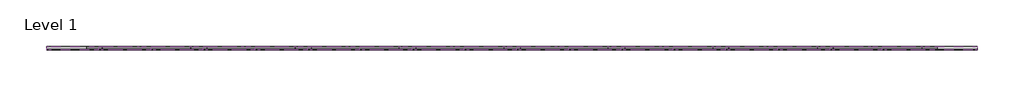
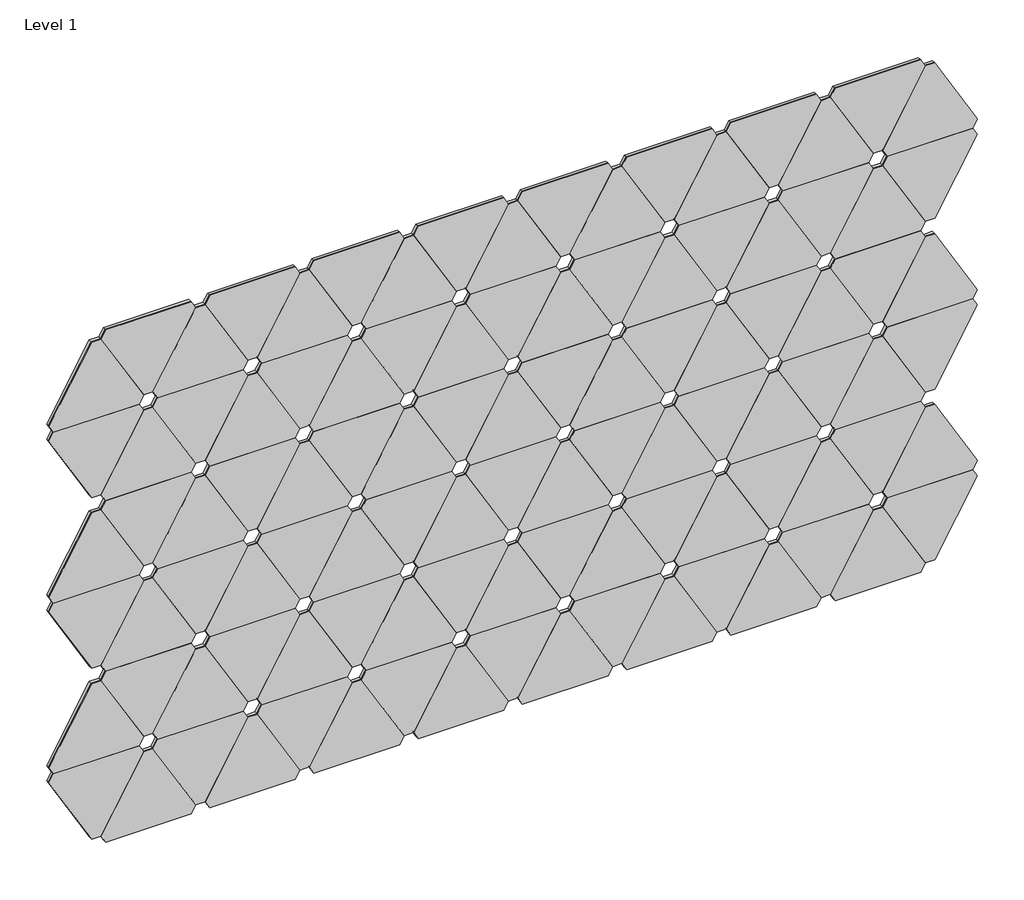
# One storey: 102 proxies.
"""IFC4 building model written with IfcOpenShell, lengths in millimetres."""

from ifc_helpers import new_model, si_unit, origin, place, context, project, spatial, transform, mapped, element, save
from components import aro_block_1_febfece8

model = new_model("IFC4")

# Units and contexts
model_context = context("Model", 3, world=origin())
ifc_project = project(units=[si_unit("LENGTHUNIT", "METRE", prefix="MILLI")], contexts=[model_context])

# Site, building, storey
site = spatial("IfcSite", under=ifc_project)
building = spatial("IfcBuilding", under=site)
storey = spatial("IfcBuildingStorey", under=building, Name="Level 1", Elevation=0.0)

# Proxies
placement = place(None, origin())
aro_block_1_shape = aro_block_1_febfece8(model_context)
element("IfcBuildingElementProxy", 1, Name="FilzFelt_ARO_Block 1 : ARO Block 1", ObjectType="FilzFelt_ARO_Block 1 : ARO Block 1", at=placement, inside=storey, context=model_context, shape_type="MappedRepresentation", body=[
    mapped(aro_block_1_shape, transform((-3219.6152095, 3946.8352795, 1144.8434287), x_axis=(-1.0, 0.0, 0.0), y_axis=(0.0, 0.0, -1.0), z_axis=(0.0, -1.0, 0.0))),
])
element("IfcBuildingElementProxy", 2, Name="FilzFelt_ARO_Block 1 : ARO Block 1", ObjectType="FilzFelt_ARO_Block 1 : ARO Block 1", at=placement, inside=storey, context=model_context, shape_type="MappedRepresentation", body=[
    mapped(aro_block_1_shape, transform((-3397.4152095, 3946.8352795, 836.8847951), x_axis=(-1.0, 0.0, 0.0), y_axis=(0.0, 0.0, -1.0), z_axis=(0.0, -1.0, 0.0))),
])
element("IfcBuildingElementProxy", 3, Name="FilzFelt_ARO_Block 1 : ARO Block 1", ObjectType="FilzFelt_ARO_Block 1 : ARO Block 1", at=placement, inside=storey, context=model_context, shape_type="MappedRepresentation", body=[
    mapped(aro_block_1_shape, transform((-3041.8152095, 3946.8352795, 836.8847951), x_axis=(-1.0, 0.0, 0.0), y_axis=(0.0, 0.0, -1.0), z_axis=(0.0, -1.0, 0.0))),
])
element("IfcBuildingElementProxy", 4, Name="FilzFelt_ARO_Block 1 : ARO Block 1", ObjectType="FilzFelt_ARO_Block 1 : ARO Block 1", at=placement, inside=storey, context=model_context, shape_type="MappedRepresentation", body=[
    mapped(aro_block_1_shape, transform((-3219.6152095, 3946.8352795, 734.2319173), x_axis=(1.0, 0.0, 0.0), y_axis=(0.0, 0.0, 1.0), z_axis=(0.0, -1.0, 0.0))),
])
element("IfcBuildingElementProxy", 5, Name="FilzFelt_ARO_Block 1 : ARO Block 1", ObjectType="FilzFelt_ARO_Block 1 : ARO Block 1", at=placement, inside=storey, context=model_context, shape_type="MappedRepresentation", body=[
    mapped(aro_block_1_shape, transform((-3219.6152095, 3946.8352795, 1760.7606959), x_axis=(-1.0, 0.0, 0.0), y_axis=(0.0, 0.0, -1.0), z_axis=(0.0, -1.0, 0.0))),
])
element("IfcBuildingElementProxy", 6, Name="FilzFelt_ARO_Block 1 : ARO Block 1", ObjectType="FilzFelt_ARO_Block 1 : ARO Block 1", at=placement, inside=storey, context=model_context, shape_type="MappedRepresentation", body=[
    mapped(aro_block_1_shape, transform((-3219.6152095, 3946.8352795, 1350.1491844), x_axis=(1.0, 0.0, 0.0), y_axis=(0.0, 0.0, 1.0), z_axis=(0.0, -1.0, 0.0))),
])
element("IfcBuildingElementProxy", 7, Name="FilzFelt_ARO_Block 1 : ARO Block 1", ObjectType="FilzFelt_ARO_Block 1 : ARO Block 1", at=placement, inside=storey, context=model_context, shape_type="MappedRepresentation", body=[
    mapped(aro_block_1_shape, transform((-2864.0152095, 3946.8352795, 1966.0664516), x_axis=(1.0, 0.0, 0.0), y_axis=(0.0, 0.0, 1.0), z_axis=(0.0, -1.0, 0.0))),
])
element("IfcBuildingElementProxy", 8, Name="FilzFelt_ARO_Block 1 : ARO Block 1", ObjectType="FilzFelt_ARO_Block 1 : ARO Block 1", at=placement, inside=storey, context=model_context, shape_type="MappedRepresentation", body=[
    mapped(aro_block_1_shape, transform((-2686.2152095, 3946.8352795, 1042.1905508), x_axis=(1.0, 0.0, 0.0), y_axis=(0.0, 0.0, 1.0), z_axis=(0.0, -1.0, 0.0))),
])
element("IfcBuildingElementProxy", 9, Name="FilzFelt_ARO_Block 1 : ARO Block 1", ObjectType="FilzFelt_ARO_Block 1 : ARO Block 1", at=placement, inside=storey, context=model_context, shape_type="MappedRepresentation", body=[
    mapped(aro_block_1_shape, transform((-2686.2152095, 3946.8352795, 836.8847951), x_axis=(-1.0, 0.0, 0.0), y_axis=(0.0, 0.0, -1.0), z_axis=(0.0, -1.0, 0.0))),
])
element("IfcBuildingElementProxy", 10, Name="FilzFelt_ARO_Block 1 : ARO Block 1", ObjectType="FilzFelt_ARO_Block 1 : ARO Block 1", at=placement, inside=storey, context=model_context, shape_type="MappedRepresentation", body=[
    mapped(aro_block_1_shape, transform((-2508.4152095, 3946.8352795, 734.2319173), x_axis=(1.0, 0.0, 0.0), y_axis=(0.0, 0.0, 1.0), z_axis=(0.0, -1.0, 0.0))),
])
element("IfcBuildingElementProxy", 11, Name="FilzFelt_ARO_Block 1 : ARO Block 1", ObjectType="FilzFelt_ARO_Block 1 : ARO Block 1", at=placement, inside=storey, context=model_context, shape_type="MappedRepresentation", body=[
    mapped(aro_block_1_shape, transform((-2330.6152095, 3946.8352795, 1658.107818), x_axis=(1.0, 0.0, 0.0), y_axis=(0.0, 0.0, 1.0), z_axis=(0.0, -1.0, 0.0))),
])
element("IfcBuildingElementProxy", 12, Name="FilzFelt_ARO_Block 1 : ARO Block 1", ObjectType="FilzFelt_ARO_Block 1 : ARO Block 1", at=placement, inside=storey, context=model_context, shape_type="MappedRepresentation", body=[
    mapped(aro_block_1_shape, transform((-2508.4152095, 3946.8352795, 1350.1491844), x_axis=(1.0, 0.0, 0.0), y_axis=(0.0, 0.0, 1.0), z_axis=(0.0, -1.0, 0.0))),
])
element("IfcBuildingElementProxy", 13, Name="FilzFelt_ARO_Block 1 : ARO Block 1", ObjectType="FilzFelt_ARO_Block 1 : ARO Block 1", at=placement, inside=storey, context=model_context, shape_type="MappedRepresentation", body=[
    mapped(aro_block_1_shape, transform((-2152.8152095, 3946.8352795, 734.2319173), x_axis=(1.0, 0.0, 0.0), y_axis=(0.0, 0.0, 1.0), z_axis=(0.0, -1.0, 0.0))),
])
element("IfcBuildingElementProxy", 14, Name="FilzFelt_ARO_Block 1 : ARO Block 1", ObjectType="FilzFelt_ARO_Block 1 : ARO Block 1", at=placement, inside=storey, context=model_context, shape_type="MappedRepresentation", body=[
    mapped(aro_block_1_shape, transform((-1975.0152095, 3946.8352795, 1042.1905508), x_axis=(1.0, 0.0, 0.0), y_axis=(0.0, 0.0, 1.0), z_axis=(0.0, -1.0, 0.0))),
])
element("IfcBuildingElementProxy", 15, Name="FilzFelt_ARO_Block 1 : ARO Block 1", ObjectType="FilzFelt_ARO_Block 1 : ARO Block 1", at=placement, inside=storey, context=model_context, shape_type="MappedRepresentation", body=[
    mapped(aro_block_1_shape, transform((-1797.2152095, 3946.8352795, 1144.8434287), x_axis=(-1.0, 0.0, 0.0), y_axis=(0.0, 0.0, -1.0), z_axis=(0.0, -1.0, 0.0))),
])
element("IfcBuildingElementProxy", 16, Name="FilzFelt_ARO_Block 1 : ARO Block 1", ObjectType="FilzFelt_ARO_Block 1 : ARO Block 1", at=placement, inside=storey, context=model_context, shape_type="MappedRepresentation", body=[
    mapped(aro_block_1_shape, transform((-1619.4152095, 3946.8352795, 836.8847951), x_axis=(-1.0, 0.0, 0.0), y_axis=(0.0, 0.0, -1.0), z_axis=(0.0, -1.0, 0.0))),
])
element("IfcBuildingElementProxy", 17, Name="FilzFelt_ARO_Block 1 : ARO Block 1", ObjectType="FilzFelt_ARO_Block 1 : ARO Block 1", at=placement, inside=storey, context=model_context, shape_type="MappedRepresentation", body=[
    mapped(aro_block_1_shape, transform((-1619.4152095, 3946.8352795, 1452.8020623), x_axis=(-1.0, 0.0, 0.0), y_axis=(0.0, 0.0, -1.0), z_axis=(0.0, -1.0, 0.0))),
])
element("IfcBuildingElementProxy", 18, Name="FilzFelt_ARO_Block 1 : ARO Block 1", ObjectType="FilzFelt_ARO_Block 1 : ARO Block 1", at=placement, inside=storey, context=model_context, shape_type="MappedRepresentation", body=[
    mapped(aro_block_1_shape, transform((-1441.6152095, 3946.8352795, 1350.1491844), x_axis=(1.0, 0.0, 0.0), y_axis=(0.0, 0.0, 1.0), z_axis=(0.0, -1.0, 0.0))),
])
element("IfcBuildingElementProxy", 19, Name="FilzFelt_ARO_Block 1 : ARO Block 1", ObjectType="FilzFelt_ARO_Block 1 : ARO Block 1", at=placement, inside=storey, context=model_context, shape_type="MappedRepresentation", body=[
    mapped(aro_block_1_shape, transform((-1441.6152095, 3946.8352795, 734.2319173), x_axis=(1.0, 0.0, 0.0), y_axis=(0.0, 0.0, 1.0), z_axis=(0.0, -1.0, 0.0))),
])
element("IfcBuildingElementProxy", 20, Name="FilzFelt_ARO_Block 1 : ARO Block 1", ObjectType="FilzFelt_ARO_Block 1 : ARO Block 1", at=placement, inside=storey, context=model_context, shape_type="MappedRepresentation", body=[
    mapped(aro_block_1_shape, transform((-1441.6152095, 3946.8352795, 1760.7606959), x_axis=(-1.0, 0.0, 0.0), y_axis=(0.0, 0.0, -1.0), z_axis=(0.0, -1.0, 0.0))),
])
element("IfcBuildingElementProxy", 21, Name="FilzFelt_ARO_Block 1 : ARO Block 1", ObjectType="FilzFelt_ARO_Block 1 : ARO Block 1", at=placement, inside=storey, context=model_context, shape_type="MappedRepresentation", body=[
    mapped(aro_block_1_shape, transform((-1086.0152095, 3946.8352795, 1144.8434287), x_axis=(-1.0, 0.0, 0.0), y_axis=(0.0, 0.0, -1.0), z_axis=(0.0, -1.0, 0.0))),
])
element("IfcBuildingElementProxy", 22, Name="FilzFelt_ARO_Block 1 : ARO Block 1", ObjectType="FilzFelt_ARO_Block 1 : ARO Block 1", at=placement, inside=storey, context=model_context, shape_type="MappedRepresentation", body=[
    mapped(aro_block_1_shape, transform((-908.2152095, 3946.8352795, 836.8847951), x_axis=(-1.0, 0.0, 0.0), y_axis=(0.0, 0.0, -1.0), z_axis=(0.0, -1.0, 0.0))),
])
element("IfcBuildingElementProxy", 23, Name="FilzFelt_ARO_Block 1 : ARO Block 1", ObjectType="FilzFelt_ARO_Block 1 : ARO Block 1", at=placement, inside=storey, context=model_context, shape_type="MappedRepresentation", body=[
    mapped(aro_block_1_shape, transform((-730.4152095, 3946.8352795, 734.2319173), x_axis=(1.0, 0.0, 0.0), y_axis=(0.0, 0.0, 1.0), z_axis=(0.0, -1.0, 0.0))),
])
element("IfcBuildingElementProxy", 24, Name="FilzFelt_ARO_Block 1 : ARO Block 1", ObjectType="FilzFelt_ARO_Block 1 : ARO Block 1", at=placement, inside=storey, context=model_context, shape_type="MappedRepresentation", body=[
    mapped(aro_block_1_shape, transform((-552.6152095, 3946.8352795, 1042.1905508), x_axis=(1.0, 0.0, 0.0), y_axis=(0.0, 0.0, 1.0), z_axis=(0.0, -1.0, 0.0))),
])
element("IfcBuildingElementProxy", 25, Name="FilzFelt_ARO_Block 1 : ARO Block 1", ObjectType="FilzFelt_ARO_Block 1 : ARO Block 1", at=placement, inside=storey, context=model_context, shape_type="MappedRepresentation", body=[
    mapped(aro_block_1_shape, transform((-3041.8152095, 3946.8352795, 1658.107818), x_axis=(1.0, 0.0, 0.0), y_axis=(0.0, 0.0, 1.0), z_axis=(0.0, -1.0, 0.0))),
])
element("IfcBuildingElementProxy", 26, Name="FilzFelt_ARO_Block 1 : ARO Block 1", ObjectType="FilzFelt_ARO_Block 1 : ARO Block 1", at=placement, inside=storey, context=model_context, shape_type="MappedRepresentation", body=[
    mapped(aro_block_1_shape, transform((-3397.4152095, 3946.8352795, 1452.8020623), x_axis=(-1.0, 0.0, 0.0), y_axis=(0.0, 0.0, -1.0), z_axis=(0.0, -1.0, 0.0))),
])
element("IfcBuildingElementProxy", 27, Name="FilzFelt_ARO_Block 1 : ARO Block 1", ObjectType="FilzFelt_ARO_Block 1 : ARO Block 1", at=placement, inside=storey, context=model_context, shape_type="MappedRepresentation", body=[
    mapped(aro_block_1_shape, transform((-3041.8152095, 3946.8352795, 1452.8020623), x_axis=(-1.0, 0.0, 0.0), y_axis=(0.0, 0.0, -1.0), z_axis=(0.0, -1.0, 0.0))),
])
element("IfcBuildingElementProxy", 28, Name="FilzFelt_ARO_Block 1 : ARO Block 1", ObjectType="FilzFelt_ARO_Block 1 : ARO Block 1", at=placement, inside=storey, context=model_context, shape_type="MappedRepresentation", body=[
    mapped(aro_block_1_shape, transform((-3219.6152095, 3946.8352795, 2376.6779631), x_axis=(-1.0, 0.0, 0.0), y_axis=(0.0, 0.0, -1.0), z_axis=(0.0, -1.0, 0.0))),
])
element("IfcBuildingElementProxy", 29, Name="FilzFelt_ARO_Block 1 : ARO Block 1", ObjectType="FilzFelt_ARO_Block 1 : ARO Block 1", at=placement, inside=storey, context=model_context, shape_type="MappedRepresentation", body=[
    mapped(aro_block_1_shape, transform((-2864.0152095, 3946.8352795, 1144.8434287), x_axis=(-1.0, 0.0, 0.0), y_axis=(0.0, 0.0, -1.0), z_axis=(0.0, -1.0, 0.0))),
])
element("IfcBuildingElementProxy", 30, Name="FilzFelt_ARO_Block 1 : ARO Block 1", ObjectType="FilzFelt_ARO_Block 1 : ARO Block 1", at=placement, inside=storey, context=model_context, shape_type="MappedRepresentation", body=[
    mapped(aro_block_1_shape, transform((-2864.0152095, 3946.8352795, 1760.7606959), x_axis=(-1.0, 0.0, 0.0), y_axis=(0.0, 0.0, -1.0), z_axis=(0.0, -1.0, 0.0))),
])
element("IfcBuildingElementProxy", 31, Name="FilzFelt_ARO_Block 1 : ARO Block 1", ObjectType="FilzFelt_ARO_Block 1 : ARO Block 1", at=placement, inside=storey, context=model_context, shape_type="MappedRepresentation", body=[
    mapped(aro_block_1_shape, transform((-2686.2152095, 3946.8352795, 1452.8020623), x_axis=(-1.0, 0.0, 0.0), y_axis=(0.0, 0.0, -1.0), z_axis=(0.0, -1.0, 0.0))),
])
element("IfcBuildingElementProxy", 32, Name="FilzFelt_ARO_Block 1 : ARO Block 1", ObjectType="FilzFelt_ARO_Block 1 : ARO Block 1", at=placement, inside=storey, context=model_context, shape_type="MappedRepresentation", body=[
    mapped(aro_block_1_shape, transform((-2330.6152095, 3946.8352795, 1452.8020623), x_axis=(-1.0, 0.0, 0.0), y_axis=(0.0, 0.0, -1.0), z_axis=(0.0, -1.0, 0.0))),
])
element("IfcBuildingElementProxy", 33, Name="FilzFelt_ARO_Block 1 : ARO Block 1", ObjectType="FilzFelt_ARO_Block 1 : ARO Block 1", at=placement, inside=storey, context=model_context, shape_type="MappedRepresentation", body=[
    mapped(aro_block_1_shape, transform((-2330.6152095, 3946.8352795, 2068.7193295), x_axis=(-1.0, 0.0, 0.0), y_axis=(0.0, 0.0, -1.0), z_axis=(0.0, -1.0, 0.0))),
])
element("IfcBuildingElementProxy", 34, Name="FilzFelt_ARO_Block 1 : ARO Block 1", ObjectType="FilzFelt_ARO_Block 1 : ARO Block 1", at=placement, inside=storey, context=model_context, shape_type="MappedRepresentation", body=[
    mapped(aro_block_1_shape, transform((-2152.8152095, 3946.8352795, 1966.0664516), x_axis=(1.0, 0.0, 0.0), y_axis=(0.0, 0.0, 1.0), z_axis=(0.0, -1.0, 0.0))),
])
element("IfcBuildingElementProxy", 35, Name="FilzFelt_ARO_Block 1 : ARO Block 1", ObjectType="FilzFelt_ARO_Block 1 : ARO Block 1", at=placement, inside=storey, context=model_context, shape_type="MappedRepresentation", body=[
    mapped(aro_block_1_shape, transform((-2152.8152095, 3946.8352795, 1144.8434287), x_axis=(-1.0, 0.0, 0.0), y_axis=(0.0, 0.0, -1.0), z_axis=(0.0, -1.0, 0.0))),
])
element("IfcBuildingElementProxy", 36, Name="FilzFelt_ARO_Block 1 : ARO Block 1", ObjectType="FilzFelt_ARO_Block 1 : ARO Block 1", at=placement, inside=storey, context=model_context, shape_type="MappedRepresentation", body=[
    mapped(aro_block_1_shape, transform((-1975.0152095, 3946.8352795, 836.8847951), x_axis=(-1.0, 0.0, 0.0), y_axis=(0.0, 0.0, -1.0), z_axis=(0.0, -1.0, 0.0))),
])
element("IfcBuildingElementProxy", 37, Name="FilzFelt_ARO_Block 1 : ARO Block 1", ObjectType="FilzFelt_ARO_Block 1 : ARO Block 1", at=placement, inside=storey, context=model_context, shape_type="MappedRepresentation", body=[
    mapped(aro_block_1_shape, transform((-1975.0152095, 3946.8352795, 1658.107818), x_axis=(1.0, 0.0, 0.0), y_axis=(0.0, 0.0, 1.0), z_axis=(0.0, -1.0, 0.0))),
])
element("IfcBuildingElementProxy", 38, Name="FilzFelt_ARO_Block 1 : ARO Block 1", ObjectType="FilzFelt_ARO_Block 1 : ARO Block 1", at=placement, inside=storey, context=model_context, shape_type="MappedRepresentation", body=[
    mapped(aro_block_1_shape, transform((-1797.2152095, 3946.8352795, 1760.7606959), x_axis=(-1.0, 0.0, 0.0), y_axis=(0.0, 0.0, -1.0), z_axis=(0.0, -1.0, 0.0))),
])
element("IfcBuildingElementProxy", 39, Name="FilzFelt_ARO_Block 1 : ARO Block 1", ObjectType="FilzFelt_ARO_Block 1 : ARO Block 1", at=placement, inside=storey, context=model_context, shape_type="MappedRepresentation", body=[
    mapped(aro_block_1_shape, transform((-1975.0152095, 3946.8352795, 2274.0250852), x_axis=(1.0, 0.0, 0.0), y_axis=(0.0, 0.0, 1.0), z_axis=(0.0, -1.0, 0.0))),
])
element("IfcBuildingElementProxy", 40, Name="FilzFelt_ARO_Block 1 : ARO Block 1", ObjectType="FilzFelt_ARO_Block 1 : ARO Block 1", at=placement, inside=storey, context=model_context, shape_type="MappedRepresentation", body=[
    mapped(aro_block_1_shape, transform((-1263.8152095, 3946.8352795, 1042.1905508), x_axis=(1.0, 0.0, 0.0), y_axis=(0.0, 0.0, 1.0), z_axis=(0.0, -1.0, 0.0))),
])
element("IfcBuildingElementProxy", 41, Name="FilzFelt_ARO_Block 1 : ARO Block 1", ObjectType="FilzFelt_ARO_Block 1 : ARO Block 1", at=placement, inside=storey, context=model_context, shape_type="MappedRepresentation", body=[
    mapped(aro_block_1_shape, transform((-1263.8152095, 3946.8352795, 1658.107818), x_axis=(1.0, 0.0, 0.0), y_axis=(0.0, 0.0, 1.0), z_axis=(0.0, -1.0, 0.0))),
])
element("IfcBuildingElementProxy", 42, Name="FilzFelt_ARO_Block 1 : ARO Block 1", ObjectType="FilzFelt_ARO_Block 1 : ARO Block 1", at=placement, inside=storey, context=model_context, shape_type="MappedRepresentation", body=[
    mapped(aro_block_1_shape, transform((-1086.0152095, 3946.8352795, 1350.1491844), x_axis=(1.0, 0.0, 0.0), y_axis=(0.0, 0.0, 1.0), z_axis=(0.0, -1.0, 0.0))),
])
element("IfcBuildingElementProxy", 43, Name="FilzFelt_ARO_Block 1 : ARO Block 1", ObjectType="FilzFelt_ARO_Block 1 : ARO Block 1", at=placement, inside=storey, context=model_context, shape_type="MappedRepresentation", body=[
    mapped(aro_block_1_shape, transform((-730.4152095, 3946.8352795, 1144.8434287), x_axis=(-1.0, 0.0, 0.0), y_axis=(0.0, 0.0, -1.0), z_axis=(0.0, -1.0, 0.0))),
])
element("IfcBuildingElementProxy", 44, Name="FilzFelt_ARO_Block 1 : ARO Block 1", ObjectType="FilzFelt_ARO_Block 1 : ARO Block 1", at=placement, inside=storey, context=model_context, shape_type="MappedRepresentation", body=[
    mapped(aro_block_1_shape, transform((-908.2152095, 3946.8352795, 1658.107818), x_axis=(1.0, 0.0, 0.0), y_axis=(0.0, 0.0, 1.0), z_axis=(0.0, -1.0, 0.0))),
])
element("IfcBuildingElementProxy", 45, Name="FilzFelt_ARO_Block 1 : ARO Block 1", ObjectType="FilzFelt_ARO_Block 1 : ARO Block 1", at=placement, inside=storey, context=model_context, shape_type="MappedRepresentation", body=[
    mapped(aro_block_1_shape, transform((-908.2152095, 3946.8352795, 2274.0250852), x_axis=(1.0, 0.0, 0.0), y_axis=(0.0, 0.0, 1.0), z_axis=(0.0, -1.0, 0.0))),
])
element("IfcBuildingElementProxy", 46, Name="FilzFelt_ARO_Block 1 : ARO Block 1", ObjectType="FilzFelt_ARO_Block 1 : ARO Block 1", at=placement, inside=storey, context=model_context, shape_type="MappedRepresentation", body=[
    mapped(aro_block_1_shape, transform((-552.6152095, 3946.8352795, 2068.7193295), x_axis=(-1.0, 0.0, 0.0), y_axis=(0.0, 0.0, -1.0), z_axis=(0.0, -1.0, 0.0))),
])
element("IfcBuildingElementProxy", 47, Name="FilzFelt_ARO_Block 1 : ARO Block 1", ObjectType="FilzFelt_ARO_Block 1 : ARO Block 1", at=placement, inside=storey, context=model_context, shape_type="MappedRepresentation", body=[
    mapped(aro_block_1_shape, transform((-552.6152095, 3946.8352795, 1452.8020623), x_axis=(-1.0, 0.0, 0.0), y_axis=(0.0, 0.0, -1.0), z_axis=(0.0, -1.0, 0.0))),
])
element("IfcBuildingElementProxy", 48, Name="FilzFelt_ARO_Block 1 : ARO Block 1", ObjectType="FilzFelt_ARO_Block 1 : ARO Block 1", at=placement, inside=storey, context=model_context, shape_type="MappedRepresentation", body=[
    mapped(aro_block_1_shape, transform((-3397.4152095, 3946.8352795, 2274.0250852), x_axis=(1.0, 0.0, 0.0), y_axis=(0.0, 0.0, 1.0), z_axis=(0.0, -1.0, 0.0))),
])
element("IfcBuildingElementProxy", 49, Name="FilzFelt_ARO_Block 1 : ARO Block 1", ObjectType="FilzFelt_ARO_Block 1 : ARO Block 1", at=placement, inside=storey, context=model_context, shape_type="MappedRepresentation", body=[
    mapped(aro_block_1_shape, transform((-3041.8152095, 3946.8352795, 2274.0250852), x_axis=(1.0, 0.0, 0.0), y_axis=(0.0, 0.0, 1.0), z_axis=(0.0, -1.0, 0.0))),
])
element("IfcBuildingElementProxy", 50, Name="FilzFelt_ARO_Block 1 : ARO Block 1", ObjectType="FilzFelt_ARO_Block 1 : ARO Block 1", at=placement, inside=storey, context=model_context, shape_type="MappedRepresentation", body=[
    mapped(aro_block_1_shape, transform((-3397.4152095, 3946.8352795, 2068.7193295), x_axis=(-1.0, 0.0, 0.0), y_axis=(0.0, 0.0, -1.0), z_axis=(0.0, -1.0, 0.0))),
])
element("IfcBuildingElementProxy", 51, Name="FilzFelt_ARO_Block 1 : ARO Block 1", ObjectType="FilzFelt_ARO_Block 1 : ARO Block 1", at=placement, inside=storey, context=model_context, shape_type="MappedRepresentation", body=[
    mapped(aro_block_1_shape, transform((-3219.6152095, 3946.8352795, 1966.0664516), x_axis=(1.0, 0.0, 0.0), y_axis=(0.0, 0.0, 1.0), z_axis=(0.0, -1.0, 0.0))),
])
element("IfcBuildingElementProxy", 52, Name="FilzFelt_ARO_Block 1 : ARO Block 1", ObjectType="FilzFelt_ARO_Block 1 : ARO Block 1", at=placement, inside=storey, context=model_context, shape_type="MappedRepresentation", body=[
    mapped(aro_block_1_shape, transform((-2864.0152095, 3946.8352795, 734.2319173), x_axis=(1.0, 0.0, 0.0), y_axis=(0.0, 0.0, 1.0), z_axis=(0.0, -1.0, 0.0))),
])
element("IfcBuildingElementProxy", 53, Name="FilzFelt_ARO_Block 1 : ARO Block 1", ObjectType="FilzFelt_ARO_Block 1 : ARO Block 1", at=placement, inside=storey, context=model_context, shape_type="MappedRepresentation", body=[
    mapped(aro_block_1_shape, transform((-2864.0152095, 3946.8352795, 2376.6779631), x_axis=(-1.0, 0.0, 0.0), y_axis=(0.0, 0.0, -1.0), z_axis=(0.0, -1.0, 0.0))),
])
element("IfcBuildingElementProxy", 54, Name="FilzFelt_ARO_Block 1 : ARO Block 1", ObjectType="FilzFelt_ARO_Block 1 : ARO Block 1", at=placement, inside=storey, context=model_context, shape_type="MappedRepresentation", body=[
    mapped(aro_block_1_shape, transform((-2686.2152095, 3946.8352795, 1658.107818), x_axis=(1.0, 0.0, 0.0), y_axis=(0.0, 0.0, 1.0), z_axis=(0.0, -1.0, 0.0))),
])
element("IfcBuildingElementProxy", 55, Name="FilzFelt_ARO_Block 1 : ARO Block 1", ObjectType="FilzFelt_ARO_Block 1 : ARO Block 1", at=placement, inside=storey, context=model_context, shape_type="MappedRepresentation", body=[
    mapped(aro_block_1_shape, transform((-2686.2152095, 3946.8352795, 2274.0250852), x_axis=(1.0, 0.0, 0.0), y_axis=(0.0, 0.0, 1.0), z_axis=(0.0, -1.0, 0.0))),
])
element("IfcBuildingElementProxy", 56, Name="FilzFelt_ARO_Block 1 : ARO Block 1", ObjectType="FilzFelt_ARO_Block 1 : ARO Block 1", at=placement, inside=storey, context=model_context, shape_type="MappedRepresentation", body=[
    mapped(aro_block_1_shape, transform((-2330.6152095, 3946.8352795, 2274.0250852), x_axis=(1.0, 0.0, 0.0), y_axis=(0.0, 0.0, 1.0), z_axis=(0.0, -1.0, 0.0))),
])
element("IfcBuildingElementProxy", 57, Name="FilzFelt_ARO_Block 1 : ARO Block 1", ObjectType="FilzFelt_ARO_Block 1 : ARO Block 1", at=placement, inside=storey, context=model_context, shape_type="MappedRepresentation", body=[
    mapped(aro_block_1_shape, transform((-2686.2152095, 3946.8352795, 2068.7193295), x_axis=(-1.0, 0.0, 0.0), y_axis=(0.0, 0.0, -1.0), z_axis=(0.0, -1.0, 0.0))),
])
element("IfcBuildingElementProxy", 58, Name="FilzFelt_ARO_Block 1 : ARO Block 1", ObjectType="FilzFelt_ARO_Block 1 : ARO Block 1", at=placement, inside=storey, context=model_context, shape_type="MappedRepresentation", body=[
    mapped(aro_block_1_shape, transform((-2508.4152095, 3946.8352795, 1966.0664516), x_axis=(1.0, 0.0, 0.0), y_axis=(0.0, 0.0, 1.0), z_axis=(0.0, -1.0, 0.0))),
])
element("IfcBuildingElementProxy", 59, Name="FilzFelt_ARO_Block 1 : ARO Block 1", ObjectType="FilzFelt_ARO_Block 1 : ARO Block 1", at=placement, inside=storey, context=model_context, shape_type="MappedRepresentation", body=[
    mapped(aro_block_1_shape, transform((-2152.8152095, 3946.8352795, 1350.1491844), x_axis=(1.0, 0.0, 0.0), y_axis=(0.0, 0.0, 1.0), z_axis=(0.0, -1.0, 0.0))),
])
element("IfcBuildingElementProxy", 60, Name="FilzFelt_ARO_Block 1 : ARO Block 1", ObjectType="FilzFelt_ARO_Block 1 : ARO Block 1", at=placement, inside=storey, context=model_context, shape_type="MappedRepresentation", body=[
    mapped(aro_block_1_shape, transform((-2152.8152095, 3946.8352795, 1760.7606959), x_axis=(-1.0, 0.0, 0.0), y_axis=(0.0, 0.0, -1.0), z_axis=(0.0, -1.0, 0.0))),
])
element("IfcBuildingElementProxy", 61, Name="FilzFelt_ARO_Block 1 : ARO Block 1", ObjectType="FilzFelt_ARO_Block 1 : ARO Block 1", at=placement, inside=storey, context=model_context, shape_type="MappedRepresentation", body=[
    mapped(aro_block_1_shape, transform((-2152.8152095, 3946.8352795, 2376.6779631), x_axis=(-1.0, 0.0, 0.0), y_axis=(0.0, 0.0, -1.0), z_axis=(0.0, -1.0, 0.0))),
])
element("IfcBuildingElementProxy", 62, Name="FilzFelt_ARO_Block 1 : ARO Block 1", ObjectType="FilzFelt_ARO_Block 1 : ARO Block 1", at=placement, inside=storey, context=model_context, shape_type="MappedRepresentation", body=[
    mapped(aro_block_1_shape, transform((-1619.4152095, 3946.8352795, 1042.1905508), x_axis=(1.0, 0.0, 0.0), y_axis=(0.0, 0.0, 1.0), z_axis=(0.0, -1.0, 0.0))),
])
element("IfcBuildingElementProxy", 63, Name="FilzFelt_ARO_Block 1 : ARO Block 1", ObjectType="FilzFelt_ARO_Block 1 : ARO Block 1", at=placement, inside=storey, context=model_context, shape_type="MappedRepresentation", body=[
    mapped(aro_block_1_shape, transform((-1619.4152095, 3946.8352795, 1658.107818), x_axis=(1.0, 0.0, 0.0), y_axis=(0.0, 0.0, 1.0), z_axis=(0.0, -1.0, 0.0))),
])
element("IfcBuildingElementProxy", 64, Name="FilzFelt_ARO_Block 1 : ARO Block 1", ObjectType="FilzFelt_ARO_Block 1 : ARO Block 1", at=placement, inside=storey, context=model_context, shape_type="MappedRepresentation", body=[
    mapped(aro_block_1_shape, transform((-1797.2152095, 3946.8352795, 2376.6779631), x_axis=(-1.0, 0.0, 0.0), y_axis=(0.0, 0.0, -1.0), z_axis=(0.0, -1.0, 0.0))),
])
element("IfcBuildingElementProxy", 65, Name="FilzFelt_ARO_Block 1 : ARO Block 1", ObjectType="FilzFelt_ARO_Block 1 : ARO Block 1", at=placement, inside=storey, context=model_context, shape_type="MappedRepresentation", body=[
    mapped(aro_block_1_shape, transform((-1975.0152095, 3946.8352795, 2068.7193295), x_axis=(-1.0, 0.0, 0.0), y_axis=(0.0, 0.0, -1.0), z_axis=(0.0, -1.0, 0.0))),
])
element("IfcBuildingElementProxy", 66, Name="FilzFelt_ARO_Block 1 : ARO Block 1", ObjectType="FilzFelt_ARO_Block 1 : ARO Block 1", at=placement, inside=storey, context=model_context, shape_type="MappedRepresentation", body=[
    mapped(aro_block_1_shape, transform((-1619.4152095, 3946.8352795, 2068.7193295), x_axis=(-1.0, 0.0, 0.0), y_axis=(0.0, 0.0, -1.0), z_axis=(0.0, -1.0, 0.0))),
])
element("IfcBuildingElementProxy", 67, Name="FilzFelt_ARO_Block 1 : ARO Block 1", ObjectType="FilzFelt_ARO_Block 1 : ARO Block 1", at=placement, inside=storey, context=model_context, shape_type="MappedRepresentation", body=[
    mapped(aro_block_1_shape, transform((-1797.2152095, 3946.8352795, 1966.0664516), x_axis=(1.0, 0.0, 0.0), y_axis=(0.0, 0.0, 1.0), z_axis=(0.0, -1.0, 0.0))),
])
element("IfcBuildingElementProxy", 68, Name="FilzFelt_ARO_Block 1 : ARO Block 1", ObjectType="FilzFelt_ARO_Block 1 : ARO Block 1", at=placement, inside=storey, context=model_context, shape_type="MappedRepresentation", body=[
    mapped(aro_block_1_shape, transform((-1441.6152095, 3946.8352795, 2376.6779631), x_axis=(-1.0, 0.0, 0.0), y_axis=(0.0, 0.0, -1.0), z_axis=(0.0, -1.0, 0.0))),
])
element("IfcBuildingElementProxy", 69, Name="FilzFelt_ARO_Block 1 : ARO Block 1", ObjectType="FilzFelt_ARO_Block 1 : ARO Block 1", at=placement, inside=storey, context=model_context, shape_type="MappedRepresentation", body=[
    mapped(aro_block_1_shape, transform((-1263.8152095, 3946.8352795, 2274.0250852), x_axis=(1.0, 0.0, 0.0), y_axis=(0.0, 0.0, 1.0), z_axis=(0.0, -1.0, 0.0))),
])
element("IfcBuildingElementProxy", 70, Name="FilzFelt_ARO_Block 1 : ARO Block 1", ObjectType="FilzFelt_ARO_Block 1 : ARO Block 1", at=placement, inside=storey, context=model_context, shape_type="MappedRepresentation", body=[
    mapped(aro_block_1_shape, transform((-1263.8152095, 3946.8352795, 2068.7193295), x_axis=(-1.0, 0.0, 0.0), y_axis=(0.0, 0.0, -1.0), z_axis=(0.0, -1.0, 0.0))),
])
element("IfcBuildingElementProxy", 71, Name="FilzFelt_ARO_Block 1 : ARO Block 1", ObjectType="FilzFelt_ARO_Block 1 : ARO Block 1", at=placement, inside=storey, context=model_context, shape_type="MappedRepresentation", body=[
    mapped(aro_block_1_shape, transform((-1086.0152095, 3946.8352795, 1966.0664516), x_axis=(1.0, 0.0, 0.0), y_axis=(0.0, 0.0, 1.0), z_axis=(0.0, -1.0, 0.0))),
])
element("IfcBuildingElementProxy", 72, Name="FilzFelt_ARO_Block 1 : ARO Block 1", ObjectType="FilzFelt_ARO_Block 1 : ARO Block 1", at=placement, inside=storey, context=model_context, shape_type="MappedRepresentation", body=[
    mapped(aro_block_1_shape, transform((-1086.0152095, 3946.8352795, 2376.6779631), x_axis=(-1.0, 0.0, 0.0), y_axis=(0.0, 0.0, -1.0), z_axis=(0.0, -1.0, 0.0))),
])
element("IfcBuildingElementProxy", 73, Name="FilzFelt_ARO_Block 1 : ARO Block 1", ObjectType="FilzFelt_ARO_Block 1 : ARO Block 1", at=placement, inside=storey, context=model_context, shape_type="MappedRepresentation", body=[
    mapped(aro_block_1_shape, transform((-908.2152095, 3946.8352795, 1042.1905508), x_axis=(1.0, 0.0, 0.0), y_axis=(0.0, 0.0, 1.0), z_axis=(0.0, -1.0, 0.0))),
])
element("IfcBuildingElementProxy", 74, Name="FilzFelt_ARO_Block 1 : ARO Block 1", ObjectType="FilzFelt_ARO_Block 1 : ARO Block 1", at=placement, inside=storey, context=model_context, shape_type="MappedRepresentation", body=[
    mapped(aro_block_1_shape, transform((-730.4152095, 3946.8352795, 1760.7606959), x_axis=(-1.0, 0.0, 0.0), y_axis=(0.0, 0.0, -1.0), z_axis=(0.0, -1.0, 0.0))),
])
element("IfcBuildingElementProxy", 75, Name="FilzFelt_ARO_Block 1 : ARO Block 1", ObjectType="FilzFelt_ARO_Block 1 : ARO Block 1", at=placement, inside=storey, context=model_context, shape_type="MappedRepresentation", body=[
    mapped(aro_block_1_shape, transform((-730.4152095, 3946.8352795, 2376.6779631), x_axis=(-1.0, 0.0, 0.0), y_axis=(0.0, 0.0, -1.0), z_axis=(0.0, -1.0, 0.0))),
])
element("IfcBuildingElementProxy", 76, Name="FilzFelt_ARO_Block 1 : ARO Block 1", ObjectType="FilzFelt_ARO_Block 1 : ARO Block 1", at=placement, inside=storey, context=model_context, shape_type="MappedRepresentation", body=[
    mapped(aro_block_1_shape, transform((-552.6152095, 3946.8352795, 2274.0250852), x_axis=(1.0, 0.0, 0.0), y_axis=(0.0, 0.0, 1.0), z_axis=(0.0, -1.0, 0.0))),
])
element("IfcBuildingElementProxy", 77, Name="FilzFelt_ARO_Block 1 : ARO Block 1", ObjectType="FilzFelt_ARO_Block 1 : ARO Block 1", at=placement, inside=storey, context=model_context, shape_type="MappedRepresentation", body=[
    mapped(aro_block_1_shape, transform((-552.6152095, 3946.8352795, 1658.107818), x_axis=(1.0, 0.0, 0.0), y_axis=(0.0, 0.0, 1.0), z_axis=(0.0, -1.0, 0.0))),
])
element("IfcBuildingElementProxy", 78, Name="FilzFelt_ARO_Block 1 : ARO Block 1", ObjectType="FilzFelt_ARO_Block 1 : ARO Block 1", at=placement, inside=storey, context=model_context, shape_type="MappedRepresentation", body=[
    mapped(aro_block_1_shape, transform((-552.6152095, 3946.8352795, 836.8847951), x_axis=(-1.0, 0.0, 0.0), y_axis=(0.0, 0.0, -1.0), z_axis=(0.0, -1.0, 0.0))),
])
element("IfcBuildingElementProxy", 79, Name="FilzFelt_ARO_Block 1 : ARO Block 1", ObjectType="FilzFelt_ARO_Block 1 : ARO Block 1", at=placement, inside=storey, context=model_context, shape_type="MappedRepresentation", body=[
    mapped(aro_block_1_shape, transform((-3397.4152095, 3946.8352795, 1042.1905508), x_axis=(1.0, 0.0, 0.0), y_axis=(0.0, 0.0, 1.0), z_axis=(0.0, -1.0, 0.0))),
])
element("IfcBuildingElementProxy", 80, Name="FilzFelt_ARO_Block 1 : ARO Block 1", ObjectType="FilzFelt_ARO_Block 1 : ARO Block 1", at=placement, inside=storey, context=model_context, shape_type="MappedRepresentation", body=[
    mapped(aro_block_1_shape, transform((-3041.8152095, 3946.8352795, 1042.1905508), x_axis=(1.0, 0.0, 0.0), y_axis=(0.0, 0.0, 1.0), z_axis=(0.0, -1.0, 0.0))),
])
element("IfcBuildingElementProxy", 81, Name="FilzFelt_ARO_Block 1 : ARO Block 1", ObjectType="FilzFelt_ARO_Block 1 : ARO Block 1", at=placement, inside=storey, context=model_context, shape_type="MappedRepresentation", body=[
    mapped(aro_block_1_shape, transform((-3397.4152095, 3946.8352795, 1658.107818), x_axis=(1.0, 0.0, 0.0), y_axis=(0.0, 0.0, 1.0), z_axis=(0.0, -1.0, 0.0))),
])
element("IfcBuildingElementProxy", 82, Name="FilzFelt_ARO_Block 1 : ARO Block 1", ObjectType="FilzFelt_ARO_Block 1 : ARO Block 1", at=placement, inside=storey, context=model_context, shape_type="MappedRepresentation", body=[
    mapped(aro_block_1_shape, transform((-3041.8152095, 3946.8352795, 2068.7193295), x_axis=(-1.0, 0.0, 0.0), y_axis=(0.0, 0.0, -1.0), z_axis=(0.0, -1.0, 0.0))),
])
element("IfcBuildingElementProxy", 83, Name="FilzFelt_ARO_Block 1 : ARO Block 1", ObjectType="FilzFelt_ARO_Block 1 : ARO Block 1", at=placement, inside=storey, context=model_context, shape_type="MappedRepresentation", body=[
    mapped(aro_block_1_shape, transform((-2864.0152095, 3946.8352795, 1350.1491844), x_axis=(1.0, 0.0, 0.0), y_axis=(0.0, 0.0, 1.0), z_axis=(0.0, -1.0, 0.0))),
])
element("IfcBuildingElementProxy", 84, Name="FilzFelt_ARO_Block 1 : ARO Block 1", ObjectType="FilzFelt_ARO_Block 1 : ARO Block 1", at=placement, inside=storey, context=model_context, shape_type="MappedRepresentation", body=[
    mapped(aro_block_1_shape, transform((-2330.6152095, 3946.8352795, 1042.1905508), x_axis=(1.0, 0.0, 0.0), y_axis=(0.0, 0.0, 1.0), z_axis=(0.0, -1.0, 0.0))),
])
element("IfcBuildingElementProxy", 85, Name="FilzFelt_ARO_Block 1 : ARO Block 1", ObjectType="FilzFelt_ARO_Block 1 : ARO Block 1", at=placement, inside=storey, context=model_context, shape_type="MappedRepresentation", body=[
    mapped(aro_block_1_shape, transform((-2508.4152095, 3946.8352795, 1144.8434287), x_axis=(-1.0, 0.0, 0.0), y_axis=(0.0, 0.0, -1.0), z_axis=(0.0, -1.0, 0.0))),
])
element("IfcBuildingElementProxy", 86, Name="FilzFelt_ARO_Block 1 : ARO Block 1", ObjectType="FilzFelt_ARO_Block 1 : ARO Block 1", at=placement, inside=storey, context=model_context, shape_type="MappedRepresentation", body=[
    mapped(aro_block_1_shape, transform((-2330.6152095, 3946.8352795, 836.8847951), x_axis=(-1.0, 0.0, 0.0), y_axis=(0.0, 0.0, -1.0), z_axis=(0.0, -1.0, 0.0))),
])
element("IfcBuildingElementProxy", 87, Name="FilzFelt_ARO_Block 1 : ARO Block 1", ObjectType="FilzFelt_ARO_Block 1 : ARO Block 1", at=placement, inside=storey, context=model_context, shape_type="MappedRepresentation", body=[
    mapped(aro_block_1_shape, transform((-2508.4152095, 3946.8352795, 1760.7606959), x_axis=(-1.0, 0.0, 0.0), y_axis=(0.0, 0.0, -1.0), z_axis=(0.0, -1.0, 0.0))),
])
element("IfcBuildingElementProxy", 88, Name="FilzFelt_ARO_Block 1 : ARO Block 1", ObjectType="FilzFelt_ARO_Block 1 : ARO Block 1", at=placement, inside=storey, context=model_context, shape_type="MappedRepresentation", body=[
    mapped(aro_block_1_shape, transform((-2508.4152095, 3946.8352795, 2376.6779631), x_axis=(-1.0, 0.0, 0.0), y_axis=(0.0, 0.0, -1.0), z_axis=(0.0, -1.0, 0.0))),
])
element("IfcBuildingElementProxy", 89, Name="FilzFelt_ARO_Block 1 : ARO Block 1", ObjectType="FilzFelt_ARO_Block 1 : ARO Block 1", at=placement, inside=storey, context=model_context, shape_type="MappedRepresentation", body=[
    mapped(aro_block_1_shape, transform((-1797.2152095, 3946.8352795, 734.2319173), x_axis=(1.0, 0.0, 0.0), y_axis=(0.0, 0.0, 1.0), z_axis=(0.0, -1.0, 0.0))),
])
element("IfcBuildingElementProxy", 90, Name="FilzFelt_ARO_Block 1 : ARO Block 1", ObjectType="FilzFelt_ARO_Block 1 : ARO Block 1", at=placement, inside=storey, context=model_context, shape_type="MappedRepresentation", body=[
    mapped(aro_block_1_shape, transform((-1975.0152095, 3946.8352795, 1452.8020623), x_axis=(-1.0, 0.0, 0.0), y_axis=(0.0, 0.0, -1.0), z_axis=(0.0, -1.0, 0.0))),
])
element("IfcBuildingElementProxy", 91, Name="FilzFelt_ARO_Block 1 : ARO Block 1", ObjectType="FilzFelt_ARO_Block 1 : ARO Block 1", at=placement, inside=storey, context=model_context, shape_type="MappedRepresentation", body=[
    mapped(aro_block_1_shape, transform((-1797.2152095, 3946.8352795, 1350.1491844), x_axis=(1.0, 0.0, 0.0), y_axis=(0.0, 0.0, 1.0), z_axis=(0.0, -1.0, 0.0))),
])
element("IfcBuildingElementProxy", 92, Name="FilzFelt_ARO_Block 1 : ARO Block 1", ObjectType="FilzFelt_ARO_Block 1 : ARO Block 1", at=placement, inside=storey, context=model_context, shape_type="MappedRepresentation", body=[
    mapped(aro_block_1_shape, transform((-1619.4152095, 3946.8352795, 2274.0250852), x_axis=(1.0, 0.0, 0.0), y_axis=(0.0, 0.0, 1.0), z_axis=(0.0, -1.0, 0.0))),
])
element("IfcBuildingElementProxy", 93, Name="FilzFelt_ARO_Block 1 : ARO Block 1", ObjectType="FilzFelt_ARO_Block 1 : ARO Block 1", at=placement, inside=storey, context=model_context, shape_type="MappedRepresentation", body=[
    mapped(aro_block_1_shape, transform((-1441.6152095, 3946.8352795, 1966.0664516), x_axis=(1.0, 0.0, 0.0), y_axis=(0.0, 0.0, 1.0), z_axis=(0.0, -1.0, 0.0))),
])
element("IfcBuildingElementProxy", 94, Name="FilzFelt_ARO_Block 1 : ARO Block 1", ObjectType="FilzFelt_ARO_Block 1 : ARO Block 1", at=placement, inside=storey, context=model_context, shape_type="MappedRepresentation", body=[
    mapped(aro_block_1_shape, transform((-1441.6152095, 3946.8352795, 1144.8434287), x_axis=(-1.0, 0.0, 0.0), y_axis=(0.0, 0.0, -1.0), z_axis=(0.0, -1.0, 0.0))),
])
element("IfcBuildingElementProxy", 95, Name="FilzFelt_ARO_Block 1 : ARO Block 1", ObjectType="FilzFelt_ARO_Block 1 : ARO Block 1", at=placement, inside=storey, context=model_context, shape_type="MappedRepresentation", body=[
    mapped(aro_block_1_shape, transform((-1263.8152095, 3946.8352795, 836.8847951), x_axis=(-1.0, 0.0, 0.0), y_axis=(0.0, 0.0, -1.0), z_axis=(0.0, -1.0, 0.0))),
])
element("IfcBuildingElementProxy", 96, Name="FilzFelt_ARO_Block 1 : ARO Block 1", ObjectType="FilzFelt_ARO_Block 1 : ARO Block 1", at=placement, inside=storey, context=model_context, shape_type="MappedRepresentation", body=[
    mapped(aro_block_1_shape, transform((-1263.8152095, 3946.8352795, 1452.8020623), x_axis=(-1.0, 0.0, 0.0), y_axis=(0.0, 0.0, -1.0), z_axis=(0.0, -1.0, 0.0))),
])
element("IfcBuildingElementProxy", 97, Name="FilzFelt_ARO_Block 1 : ARO Block 1", ObjectType="FilzFelt_ARO_Block 1 : ARO Block 1", at=placement, inside=storey, context=model_context, shape_type="MappedRepresentation", body=[
    mapped(aro_block_1_shape, transform((-1086.0152095, 3946.8352795, 734.2319173), x_axis=(1.0, 0.0, 0.0), y_axis=(0.0, 0.0, 1.0), z_axis=(0.0, -1.0, 0.0))),
])
element("IfcBuildingElementProxy", 98, Name="FilzFelt_ARO_Block 1 : ARO Block 1", ObjectType="FilzFelt_ARO_Block 1 : ARO Block 1", at=placement, inside=storey, context=model_context, shape_type="MappedRepresentation", body=[
    mapped(aro_block_1_shape, transform((-1086.0152095, 3946.8352795, 1760.7606959), x_axis=(-1.0, 0.0, 0.0), y_axis=(0.0, 0.0, -1.0), z_axis=(0.0, -1.0, 0.0))),
])
element("IfcBuildingElementProxy", 99, Name="FilzFelt_ARO_Block 1 : ARO Block 1", ObjectType="FilzFelt_ARO_Block 1 : ARO Block 1", at=placement, inside=storey, context=model_context, shape_type="MappedRepresentation", body=[
    mapped(aro_block_1_shape, transform((-908.2152095, 3946.8352795, 1452.8020623), x_axis=(-1.0, 0.0, 0.0), y_axis=(0.0, 0.0, -1.0), z_axis=(0.0, -1.0, 0.0))),
])
element("IfcBuildingElementProxy", 100, Name="FilzFelt_ARO_Block 1 : ARO Block 1", ObjectType="FilzFelt_ARO_Block 1 : ARO Block 1", at=placement, inside=storey, context=model_context, shape_type="MappedRepresentation", body=[
    mapped(aro_block_1_shape, transform((-730.4152095, 3946.8352795, 1350.1491844), x_axis=(1.0, 0.0, 0.0), y_axis=(0.0, 0.0, 1.0), z_axis=(0.0, -1.0, 0.0))),
])
element("IfcBuildingElementProxy", 101, Name="FilzFelt_ARO_Block 1 : ARO Block 1", ObjectType="FilzFelt_ARO_Block 1 : ARO Block 1", at=placement, inside=storey, context=model_context, shape_type="MappedRepresentation", body=[
    mapped(aro_block_1_shape, transform((-908.2152095, 3946.8352795, 2068.7193295), x_axis=(-1.0, 0.0, 0.0), y_axis=(0.0, 0.0, -1.0), z_axis=(0.0, -1.0, 0.0))),
])
element("IfcBuildingElementProxy", 102, Name="FilzFelt_ARO_Block 1 : ARO Block 1", ObjectType="FilzFelt_ARO_Block 1 : ARO Block 1", at=placement, inside=storey, context=model_context, shape_type="MappedRepresentation", body=[
    mapped(aro_block_1_shape, transform((-730.4152095, 3946.8352795, 1966.0664516), x_axis=(1.0, 0.0, 0.0), y_axis=(0.0, 0.0, 1.0), z_axis=(0.0, -1.0, 0.0))),
])

save(model, "model.ifc")
